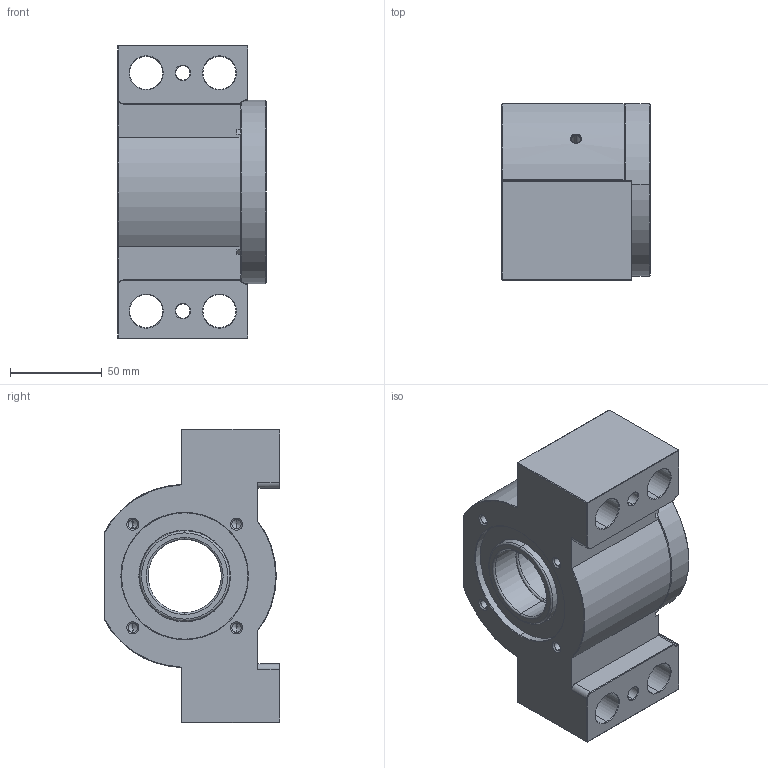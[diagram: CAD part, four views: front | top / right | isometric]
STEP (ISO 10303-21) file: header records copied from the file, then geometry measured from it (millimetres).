
FILE_DESCRIPTION (( 'STEP AP203' ), '1' );
FILE_NAME ('SBK40DFD²Õ¦X.STEP', '2010-08-13T12:11:09', ( '' ), ( '' ), 'SwSTEP 2.0', 'SolidWorks 2008', '' );
FILE_SCHEMA (( 'CONFIG_CONTROL_DESIGN' ));
Length unit declared in the file: millimetre
Products named in the file (1): SBK40DFD組合
Bounding box: 81 x 96 x 160 mm (x, y, z)
Volume: 648165.3 mm3; surface area: 188282.8 mm2
Topology: 78 solids, 78 shells, 578 faces, 1433 edges, 886 vertices
Faces by surface type: cylinder 162, cone 139, sphere 132, plane 99, torus 46
Entity records: 14778 total; most frequent: DIRECTION 2857, CARTESIAN_POINT 2570, ORIENTED_EDGE 2166, AXIS2_PLACEMENT_3D 1225, EDGE_CURVE 1083, VERTEX_POINT 688, EDGE_LOOP 655, CIRCLE 646
